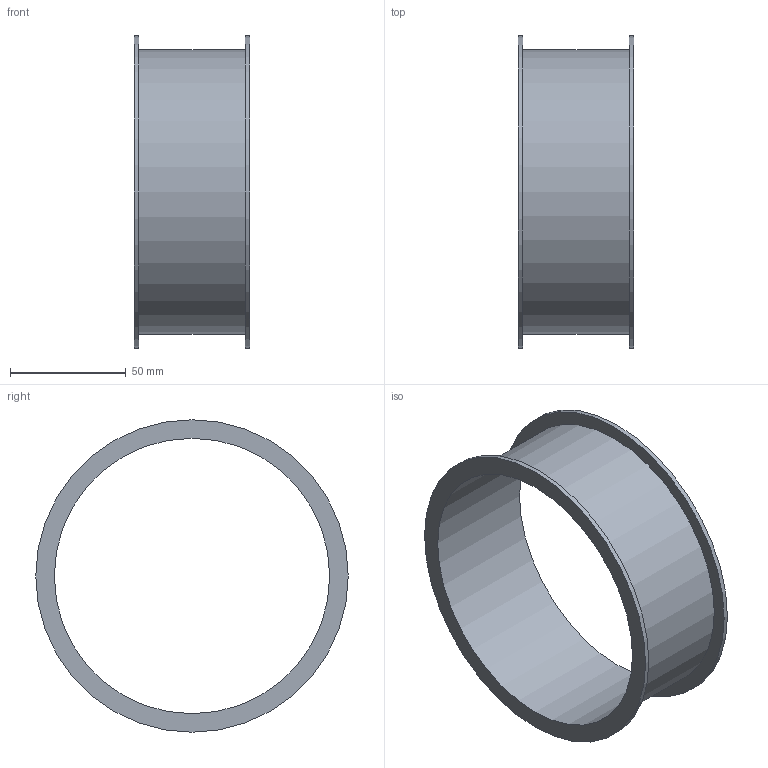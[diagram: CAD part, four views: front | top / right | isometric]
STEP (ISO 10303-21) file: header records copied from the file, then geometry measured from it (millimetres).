
FILE_DESCRIPTION((''),'2;1');
FILE_NAME('U:\Wolfgang\Marcel-3D\fertig\Kapitel 1\1221005.stp','2010-05-31T11:00:50',('TK2'),(''),'Autodesk Inventor 2010','Autodesk Inventor 2010','');
FILE_SCHEMA(('AUTOMOTIVE_DESIGN { 1 0 10303 214 1 1 1 1 }'));
Length unit declared in the file: millimetre
Products named in the file (1): 1221005
Bounding box: 50 x 135 x 135 mm (x, y, z)
Volume: 47739.6 mm3; surface area: 49411 mm2
Topology: 1 solids, 1 shells, 8 faces, 12 edges, 8 vertices
Faces by surface type: cylinder 4, plane 4
Full cylindrical faces by diameter (mm): 119 x1, 123 x1, 135 x2
Entity records: 194 total; most frequent: DIRECTION 34, CARTESIAN_POINT 25, AXIS2_PLACEMENT_3D 17, ORIENTED_EDGE 16, EDGE_LOOP 16, VERTEX_POINT 8, CIRCLE 8, EDGE_CURVE 8
